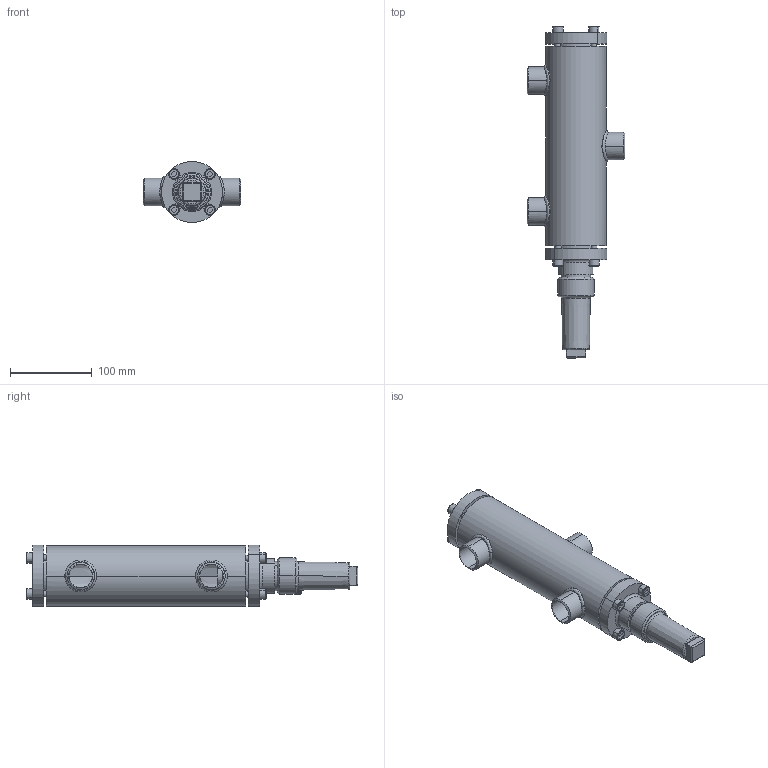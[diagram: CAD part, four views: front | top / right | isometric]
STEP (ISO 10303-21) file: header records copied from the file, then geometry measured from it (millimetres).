
FILE_DESCRIPTION (( 'STEP AP214' ), '1' );
FILE_NAME ('WVB23000D12-DN025_R1_PS40.STEP', '2010-09-08T08:09:38', ( 'Eckhard Grams' ), ( 'AWP Kälte Klima Armaturen GmbH' ), 'SwSTEP 2.0', 'SolidWorks 2002296', '' );
FILE_SCHEMA (( 'AUTOMOTIVE_DESIGN' ));
Length unit declared in the file: millimetre
Products named in the file (11): WVB23000D12-DN025_R1_PS40; WVB-R23000E13_Deck+Schr-DN25-32_Standard; Deckel23000E13-DN25-32_Standard; Kappe 16402-13_DN10-32 (M36x2)_Standard; AVB16300E13_Deck+Schr-DN25-32_Standard; Deckel16300E13-DN25-32_Standard; Zylinderschraube-DIN912_M 8x  25; Geh,kpl24000E12_DN25_R1_PS40_Standard; Gehäuse24000E12-DN25_R1_PS40_Standard; Rohrstutzen-24000E12-DN25_R1_Standard; Schw-24000E12-DN25_Standard
Assembly tree (21 placements, depth 3):
  WVB23000D12-DN025_R1_PS40
    Kappe 16402-13_DN10-32 (M36x2)_Standard
    Geh,kpl24000E12_DN25_R1_PS40_Standard
      Schw-24000E12-DN25_Standard  x3
      Rohrstutzen-24000E12-DN25_R1_Standard  x3
      Gehäuse24000E12-DN25_R1_PS40_Standard
    WVB-R23000E13_Deck+Schr-DN25-32_Standard
      Zylinderschraube-DIN912_M 8x  25  x4
      Deckel23000E13-DN25-32_Standard
    AVB16300E13_Deck+Schr-DN25-32_Standard
      Deckel16300E13-DN25-32_Standard
      Zylinderschraube-DIN912_M 8x  25  x4
Bounding box: 120 x 406.5 x 74.71 mm (x, y, z)
Volume: 961292.1 mm3; surface area: 184947 mm2
Topology: 18 solids, 18 shells, 395 faces, 899 edges, 567 vertices
Faces by surface type: cylinder 168, plane 129, cone 39, torus 37, bspline 22
Entity records: 21247 total; most frequent: CARTESIAN_POINT 15027, DIRECTION 1181, ORIENTED_EDGE 1086, EDGE_CURVE 543, AXIS2_PLACEMENT_3D 502, VERTEX_POINT 343, EDGE_LOOP 280, CIRCLE 258
